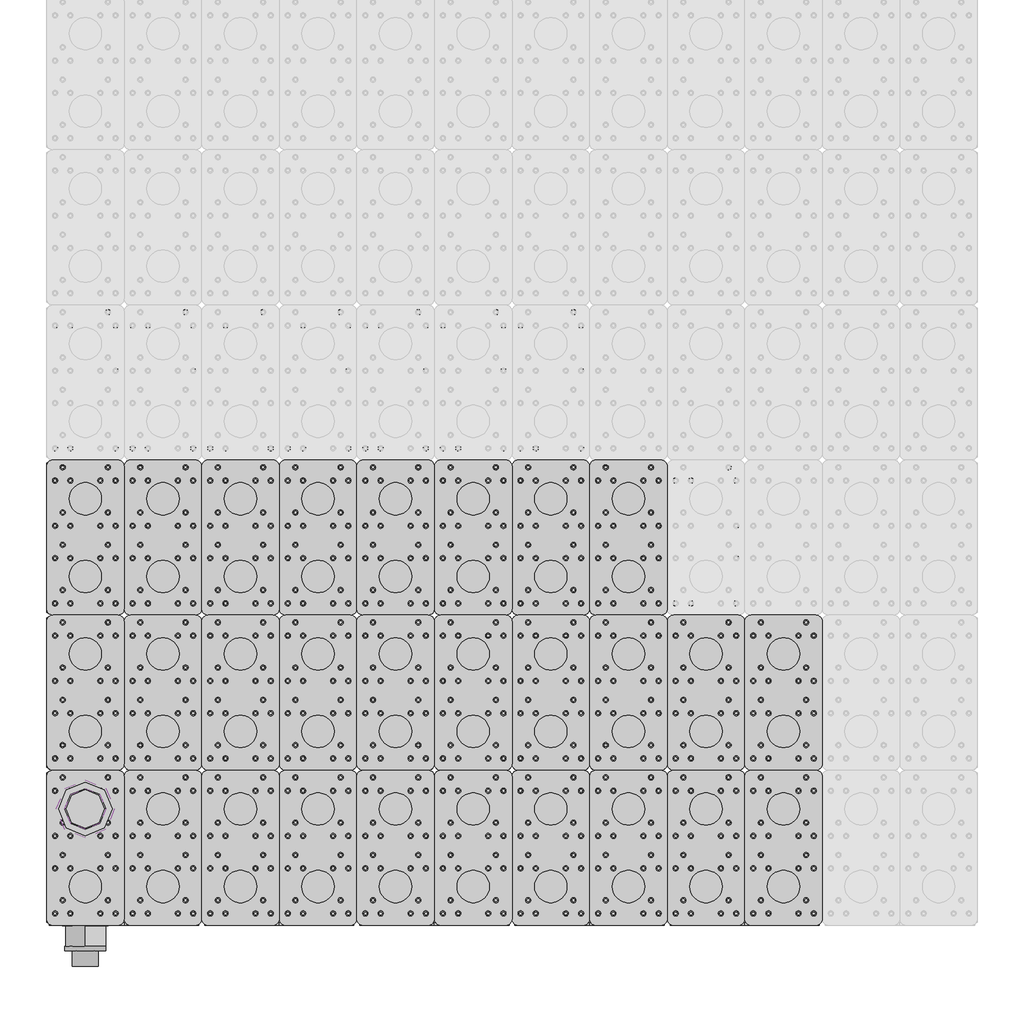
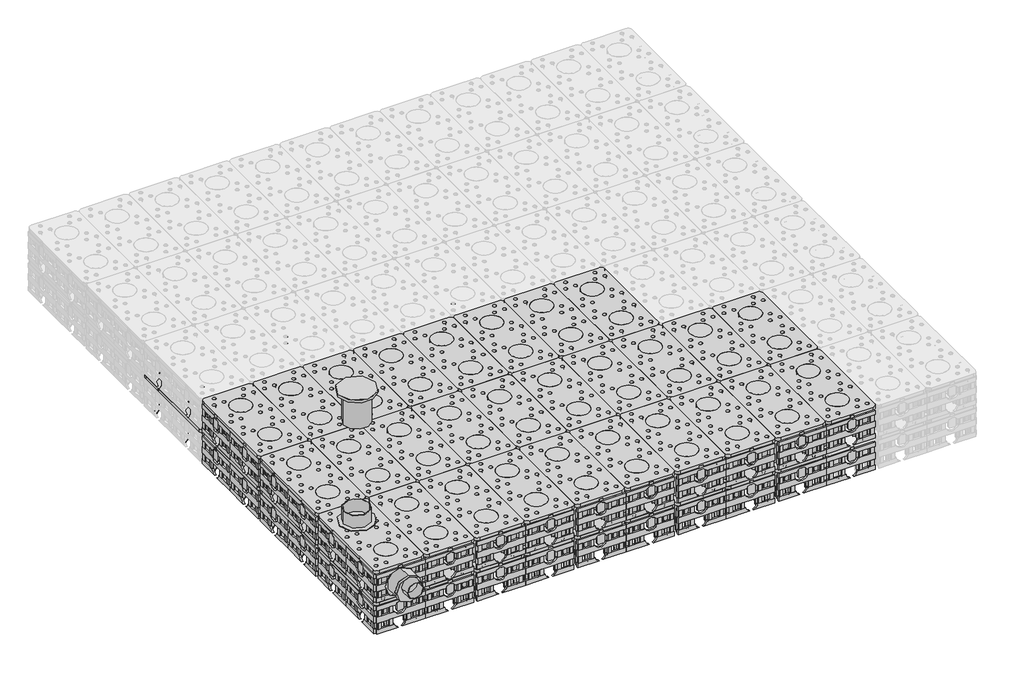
# One storey, part 1 of 6: 81 unitary equipment elements, 3 pipe fittings.
"""IFC4 building model written with IfcOpenShell, lengths in millimetres."""

from ifc_helpers import new_model, si_unit, origin, place, context, project, spatial, transform, mapped, element, save
from components import pipe_fitting_96394642, pipe_fitting_315_cast_iron_ral9200_b04730d4, std_61731345, unitary_equipment_315_mm_28b5e6e1, std_5ed7479e, std_ece4d7e7, std_5641c3e3, std_cb78f788, std_054ed5cf, std_b7651e4d, std_b2eda6de, std_02d09377

model = new_model("IFC4")

# Units and contexts
model_context = context("Model", 3, world=origin())
ifc_project = project(units=[si_unit("LENGTHUNIT", "METRE", prefix="MILLI")], contexts=[model_context])

# Site, building, storey
site = spatial("IfcSite", under=ifc_project)
building = spatial("IfcBuilding", under=site)
storey = spatial("IfcBuildingStorey", under=building, Name="Aquacell", Elevation=-2300.0)

# Pipe fittings
placement = place(None, origin())
pipe_fitting_shape = pipe_fitting_96394642(model_context)
element("IfcPipeFitting", 1, ObjectType="Z_PIF_UN_Aquacell_NG_Telescopic_Pipe_PVC_Wavin_(nested) : DN315 L=375mm RAL8012", at=placement, inside=storey, context=model_context, shape_type="MappedRepresentation", body=[
    mapped(pipe_fitting_shape, transform((2786.051096, -3539.2220602, 165.0), x_axis=(1.0000000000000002, 0.0, 0.0), y_axis=(0.0, 1.0, 0.0), z_axis=(0.0, 0.0, 1.0000000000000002))),
])
pipe_fitting_315_cast_iron_ral9200_shape = pipe_fitting_315_cast_iron_ral9200_b04730d4(model_context)
element("IfcPipeFitting", 2, ObjectType="Z_PIF_UN_Aquacell_NG_Round_Cover_Wavin_(nested) : 315 Cast iron, RAL9200", at=placement, inside=storey, context=model_context, shape_type="MappedRepresentation", body=[
    mapped(pipe_fitting_315_cast_iron_ral9200_shape, transform((2786.051096, -3539.2220602, 200.0), x_axis=(1.0000000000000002, 0.0, 0.0), y_axis=(0.0, 1.0, 0.0), z_axis=(0.0, 0.0, 1.0000000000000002))),
])
std_shape = std_61731345(model_context)
element("IfcPipeFitting", 3, ObjectType="Z_ME_UN_Aquacell_NG_Connection_Adapter_Wavin_(nested) : std", at=placement, inside=storey, context=model_context, shape_type="MappedRepresentation", body=[
    mapped(std_shape, transform((2786.051096, -4439.2220602, -1680.5), x_axis=(-1.0, 0.0, 0.0), y_axis=(0.0, 0.0, 1.0), z_axis=(0.0, 1.0, 0.0))),
])

# Unitary equipment
unitary_equipment_315_mm_shape = unitary_equipment_315_mm_28b5e6e1(model_context)
element("IfcUnitaryEquipment", 4, ObjectType="Z_ME_UN_Aquacell_NG_Kit_Shaft_Connector_Wavin_(nested) : 315 mm", at=placement, inside=storey, context=model_context, shape_type="MappedRepresentation", body=[
    mapped(unitary_equipment_315_mm_shape, transform((2786.051096, -3539.2220602, -1475.0), x_axis=(0.0, 1.0, 0.0), y_axis=(-1.0000000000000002, 0.0, 0.0), z_axis=(0.0, 0.0, 1.0000000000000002))),
])
std_2_shape = std_5ed7479e(model_context)
element("IfcUnitaryEquipment", 5, ObjectType="Z_ME_UN_Aquacell_NG_Lateral_Side_Plate_Wavin_(nested) : std", at=placement, inside=storey, context=model_context, shape_type="MappedRepresentation", body=[
    mapped(std_2_shape, transform((2486.051096, -839.2220602, -2306.0), x_axis=(0.0, -1.0000000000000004, 0.0), y_axis=(1.0000000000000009, 0.0, 0.0), z_axis=(0.0, 0.0, 1.0000000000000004))),
])
element("IfcUnitaryEquipment", 6, ObjectType="Z_ME_UN_Aquacell_NG_Lateral_Side_Plate_Wavin_(nested) : std", at=placement, inside=storey, context=model_context, shape_type="MappedRepresentation", body=[
    mapped(std_2_shape, transform((3686.051096, -4439.2220602, -2306.0), x_axis=(1.0, 0.0, 0.0), y_axis=(0.0, 1.0, 0.0), z_axis=(0.0, 0.0, 1.0))),
])
element("IfcUnitaryEquipment", 7, ObjectType="Z_ME_UN_Aquacell_NG_Lateral_Side_Plate_Wavin_(nested) : std", at=placement, inside=storey, context=model_context, shape_type="MappedRepresentation", body=[
    mapped(std_2_shape, transform((3686.051096, -4439.2220602, -1906.0), x_axis=(1.0, 0.0, 0.0), y_axis=(0.0, 1.0, 0.0), z_axis=(0.0, 0.0, 1.0))),
])
element("IfcUnitaryEquipment", 8, ObjectType="Z_ME_UN_Aquacell_NG_Lateral_Side_Plate_Wavin_(nested) : std", at=placement, inside=storey, context=model_context, shape_type="MappedRepresentation", body=[
    mapped(std_2_shape, transform((2486.051096, -839.2220602, -1906.0), x_axis=(0.0, -1.0000000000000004, 0.0), y_axis=(1.0000000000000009, 0.0, 0.0), z_axis=(0.0, 0.0, 1.0000000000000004))),
])
element("IfcUnitaryEquipment", 9, ObjectType="Z_ME_UN_Aquacell_NG_Lateral_Side_Plate_Wavin_(nested) : std", at=placement, inside=storey, context=model_context, shape_type="MappedRepresentation", body=[
    mapped(std_2_shape, transform((7286.051096, -4439.2220602, -2306.0), x_axis=(1.0, 0.0, 0.0), y_axis=(0.0, 1.0, 0.0), z_axis=(0.0, 0.0, 1.0))),
])
element("IfcUnitaryEquipment", 10, ObjectType="Z_ME_UN_Aquacell_NG_Lateral_Side_Plate_Wavin_(nested) : std", at=placement, inside=storey, context=model_context, shape_type="MappedRepresentation", body=[
    mapped(std_2_shape, transform((7286.051096, -4439.2220602, -1906.0), x_axis=(1.0, 0.0, 0.0), y_axis=(0.0, 1.0, 0.0), z_axis=(0.0, 0.0, 1.0))),
])
element("IfcUnitaryEquipment", 11, ObjectType="Z_ME_UN_Aquacell_NG_Lateral_Side_Plate_Wavin_(nested) : std", at=placement, inside=storey, context=model_context, shape_type="MappedRepresentation", body=[
    mapped(std_2_shape, transform((2486.051096, -2039.2220602, -2306.0), x_axis=(0.0, -1.0000000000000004, 0.0), y_axis=(1.0000000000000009, 0.0, 0.0), z_axis=(0.0, 0.0, 1.0000000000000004))),
])
element("IfcUnitaryEquipment", 12, ObjectType="Z_ME_UN_Aquacell_NG_Lateral_Side_Plate_Wavin_(nested) : std", at=placement, inside=storey, context=model_context, shape_type="MappedRepresentation", body=[
    mapped(std_2_shape, transform((2486.051096, -2039.2220602, -1906.0), x_axis=(0.0, -1.0000000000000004, 0.0), y_axis=(1.0000000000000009, 0.0, 0.0), z_axis=(0.0, 0.0, 1.0000000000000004))),
])
element("IfcUnitaryEquipment", 13, ObjectType="Z_ME_UN_Aquacell_NG_Lateral_Side_Plate_Wavin_(nested) : std", at=placement, inside=storey, context=model_context, shape_type="MappedRepresentation", body=[
    mapped(std_2_shape, transform((2486.051096, -3239.2220602, -2306.0), x_axis=(0.0, -1.0000000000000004, 0.0), y_axis=(1.0000000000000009, 0.0, 0.0), z_axis=(0.0, 0.0, 1.0000000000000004))),
])
element("IfcUnitaryEquipment", 14, ObjectType="Z_ME_UN_Aquacell_NG_Lateral_Side_Plate_Wavin_(nested) : std", at=placement, inside=storey, context=model_context, shape_type="MappedRepresentation", body=[
    mapped(std_2_shape, transform((2486.051096, -3239.2220602, -1906.0), x_axis=(0.0, -1.0000000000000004, 0.0), y_axis=(1.0000000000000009, 0.0, 0.0), z_axis=(0.0, 0.0, 1.0000000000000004))),
])
element("IfcUnitaryEquipment", 15, ObjectType="Z_ME_UN_Aquacell_NG_Lateral_Side_Plate_Wavin_(nested) : std", at=placement, inside=storey, context=model_context, shape_type="MappedRepresentation", body=[
    mapped(std_2_shape, transform((6086.051096, -4439.2220602, -2306.0), x_axis=(1.0, 0.0, 0.0), y_axis=(0.0, 1.0, 0.0), z_axis=(0.0, 0.0, 1.0))),
])
element("IfcUnitaryEquipment", 16, ObjectType="Z_ME_UN_Aquacell_NG_Lateral_Side_Plate_Wavin_(nested) : std", at=placement, inside=storey, context=model_context, shape_type="MappedRepresentation", body=[
    mapped(std_2_shape, transform((6086.051096, -4439.2220602, -1906.0), x_axis=(1.0, 0.0, 0.0), y_axis=(0.0, 1.0, 0.0), z_axis=(0.0, 0.0, 1.0))),
])
element("IfcUnitaryEquipment", 17, ObjectType="Z_ME_UN_Aquacell_NG_Lateral_Side_Plate_Wavin_(nested) : std", at=placement, inside=storey, context=model_context, shape_type="MappedRepresentation", body=[
    mapped(std_2_shape, transform((4886.051096, -4439.2220602, -2306.0), x_axis=(1.0, 0.0, 0.0), y_axis=(0.0, 1.0, 0.0), z_axis=(0.0, 0.0, 1.0))),
])
element("IfcUnitaryEquipment", 18, ObjectType="Z_ME_UN_Aquacell_NG_Lateral_Side_Plate_Wavin_(nested) : std", at=placement, inside=storey, context=model_context, shape_type="MappedRepresentation", body=[
    mapped(std_2_shape, transform((4886.051096, -4439.2220602, -1906.0), x_axis=(1.0, 0.0, 0.0), y_axis=(0.0, 1.0, 0.0), z_axis=(0.0, 0.0, 1.0))),
])
std_3_shape = std_ece4d7e7(model_context)
std_4_shape = std_5641c3e3(model_context)
element("IfcUnitaryEquipment", 19, ObjectType="Z_ME_UN_Aquacell_NG_Infiltration_Unit_Wavin_(nested) : std", at=placement, inside=storey, context=model_context, shape_type="MappedRepresentation", body=[
    mapped(std_3_shape, transform((7886.051096, -4439.2220602, -2475.0), x_axis=(0.0, 1.0, 0.0), y_axis=(-1.0000000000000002, 0.0, 0.0), z_axis=(0.0, 0.0, 1.0000000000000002))),
    mapped(std_4_shape, transform((7886.051096, -4439.2220602, -2475.0), x_axis=(0.0, 1.0, 0.0), y_axis=(-1.0000000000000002, 0.0, 0.0), z_axis=(0.0, 0.0, 1.0000000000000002))),
])
element("IfcUnitaryEquipment", 20, ObjectType="Z_ME_UN_Aquacell_NG_Infiltration_Unit_Wavin_(nested) : std", at=placement, inside=storey, context=model_context, shape_type="MappedRepresentation", body=[
    mapped(std_3_shape, transform((7286.051096, -4439.2220602, -2475.0), x_axis=(0.0, 1.0, 0.0), y_axis=(-1.0000000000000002, 0.0, 0.0), z_axis=(0.0, 0.0, 1.0000000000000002))),
    mapped(std_4_shape, transform((7286.051096, -4439.2220602, -2475.0), x_axis=(0.0, 1.0, 0.0), y_axis=(-1.0000000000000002, 0.0, 0.0), z_axis=(0.0, 0.0, 1.0000000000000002))),
])
element("IfcUnitaryEquipment", 21, ObjectType="Z_ME_UN_Aquacell_NG_Infiltration_Unit_Wavin_(nested) : std", at=placement, inside=storey, context=model_context, shape_type="MappedRepresentation", body=[
    mapped(std_3_shape, transform((6686.051096, -4439.2220602, -2475.0), x_axis=(0.0, 1.0, 0.0), y_axis=(-1.0000000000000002, 0.0, 0.0), z_axis=(0.0, 0.0, 1.0000000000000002))),
    mapped(std_4_shape, transform((6686.051096, -4439.2220602, -2475.0), x_axis=(0.0, 1.0, 0.0), y_axis=(-1.0000000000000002, 0.0, 0.0), z_axis=(0.0, 0.0, 1.0000000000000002))),
])
element("IfcUnitaryEquipment", 22, ObjectType="Z_ME_UN_Aquacell_NG_Infiltration_Unit_Wavin_(nested) : std", at=placement, inside=storey, context=model_context, shape_type="MappedRepresentation", body=[
    mapped(std_3_shape, transform((6086.051096, -4439.2220602, -2475.0), x_axis=(0.0, 1.0, 0.0), y_axis=(-1.0000000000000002, 0.0, 0.0), z_axis=(0.0, 0.0, 1.0000000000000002))),
    mapped(std_4_shape, transform((6086.051096, -4439.2220602, -2475.0), x_axis=(0.0, 1.0, 0.0), y_axis=(-1.0000000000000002, 0.0, 0.0), z_axis=(0.0, 0.0, 1.0000000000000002))),
])
element("IfcUnitaryEquipment", 23, ObjectType="Z_ME_UN_Aquacell_NG_Infiltration_Unit_Wavin_(nested) : std", at=placement, inside=storey, context=model_context, shape_type="MappedRepresentation", body=[
    mapped(std_3_shape, transform((5486.051096, -4439.2220602, -2475.0), x_axis=(0.0, 1.0, 0.0), y_axis=(-1.0000000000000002, 0.0, 0.0), z_axis=(0.0, 0.0, 1.0000000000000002))),
    mapped(std_4_shape, transform((5486.051096, -4439.2220602, -2475.0), x_axis=(0.0, 1.0, 0.0), y_axis=(-1.0000000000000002, 0.0, 0.0), z_axis=(0.0, 0.0, 1.0000000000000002))),
])
element("IfcUnitaryEquipment", 24, ObjectType="Z_ME_UN_Aquacell_NG_Infiltration_Unit_Wavin_(nested) : std", at=placement, inside=storey, context=model_context, shape_type="MappedRepresentation", body=[
    mapped(std_3_shape, transform((4886.051096, -4439.2220602, -2475.0), x_axis=(0.0, 1.0, 0.0), y_axis=(-1.0000000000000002, 0.0, 0.0), z_axis=(0.0, 0.0, 1.0000000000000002))),
    mapped(std_4_shape, transform((4886.051096, -4439.2220602, -2475.0), x_axis=(0.0, 1.0, 0.0), y_axis=(-1.0000000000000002, 0.0, 0.0), z_axis=(0.0, 0.0, 1.0000000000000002))),
])
element("IfcUnitaryEquipment", 25, ObjectType="Z_ME_UN_Aquacell_NG_Infiltration_Unit_Wavin_(nested) : std", at=placement, inside=storey, context=model_context, shape_type="MappedRepresentation", body=[
    mapped(std_3_shape, transform((4286.051096, -4439.2220602, -2475.0), x_axis=(0.0, 1.0, 0.0), y_axis=(-1.0000000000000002, 0.0, 0.0), z_axis=(0.0, 0.0, 1.0000000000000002))),
    mapped(std_4_shape, transform((4286.051096, -4439.2220602, -2475.0), x_axis=(0.0, 1.0, 0.0), y_axis=(-1.0000000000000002, 0.0, 0.0), z_axis=(0.0, 0.0, 1.0000000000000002))),
])
element("IfcUnitaryEquipment", 26, ObjectType="Z_ME_UN_Aquacell_NG_Infiltration_Unit_Wavin_(nested) : std", at=placement, inside=storey, context=model_context, shape_type="MappedRepresentation", body=[
    mapped(std_3_shape, transform((3686.051096, -4439.2220602, -2475.0), x_axis=(0.0, 1.0, 0.0), y_axis=(-1.0000000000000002, 0.0, 0.0), z_axis=(0.0, 0.0, 1.0000000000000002))),
    mapped(std_4_shape, transform((3686.051096, -4439.2220602, -2475.0), x_axis=(0.0, 1.0, 0.0), y_axis=(-1.0000000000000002, 0.0, 0.0), z_axis=(0.0, 0.0, 1.0000000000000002))),
])
element("IfcUnitaryEquipment", 27, ObjectType="Z_ME_UN_Aquacell_NG_Infiltration_Unit_Wavin_(nested) : std", at=placement, inside=storey, context=model_context, shape_type="MappedRepresentation", body=[
    mapped(std_3_shape, transform((7886.051096, -3239.2220602, -2475.0), x_axis=(0.0, 1.0, 0.0), y_axis=(-1.0000000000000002, 0.0, 0.0), z_axis=(0.0, 0.0, 1.0000000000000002))),
    mapped(std_4_shape, transform((7886.051096, -3239.2220602, -2475.0), x_axis=(0.0, 1.0, 0.0), y_axis=(-1.0000000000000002, 0.0, 0.0), z_axis=(0.0, 0.0, 1.0000000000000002))),
])
element("IfcUnitaryEquipment", 28, ObjectType="Z_ME_UN_Aquacell_NG_Infiltration_Unit_Wavin_(nested) : std", at=placement, inside=storey, context=model_context, shape_type="MappedRepresentation", body=[
    mapped(std_3_shape, transform((7886.051096, -2039.2220602, -2475.0), x_axis=(0.0, 1.0, 0.0), y_axis=(-1.0000000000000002, 0.0, 0.0), z_axis=(0.0, 0.0, 1.0000000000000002))),
    mapped(std_4_shape, transform((7886.051096, -2039.2220602, -2475.0), x_axis=(0.0, 1.0, 0.0), y_axis=(-1.0000000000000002, 0.0, 0.0), z_axis=(0.0, 0.0, 1.0000000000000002))),
])
element("IfcUnitaryEquipment", 29, ObjectType="Z_ME_UN_Aquacell_NG_Infiltration_Unit_Wavin_(nested) : std", at=placement, inside=storey, context=model_context, shape_type="MappedRepresentation", body=[
    mapped(std_3_shape, transform((7286.051096, -3239.2220602, -2475.0), x_axis=(0.0, 1.0, 0.0), y_axis=(-1.0000000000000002, 0.0, 0.0), z_axis=(0.0, 0.0, 1.0000000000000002))),
    mapped(std_4_shape, transform((7286.051096, -3239.2220602, -2475.0), x_axis=(0.0, 1.0, 0.0), y_axis=(-1.0000000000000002, 0.0, 0.0), z_axis=(0.0, 0.0, 1.0000000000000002))),
])
element("IfcUnitaryEquipment", 30, ObjectType="Z_ME_UN_Aquacell_NG_Infiltration_Unit_Wavin_(nested) : std", at=placement, inside=storey, context=model_context, shape_type="MappedRepresentation", body=[
    mapped(std_3_shape, transform((7286.051096, -2039.2220602, -2475.0), x_axis=(0.0, 1.0, 0.0), y_axis=(-1.0000000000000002, 0.0, 0.0), z_axis=(0.0, 0.0, 1.0000000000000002))),
    mapped(std_4_shape, transform((7286.051096, -2039.2220602, -2475.0), x_axis=(0.0, 1.0, 0.0), y_axis=(-1.0000000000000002, 0.0, 0.0), z_axis=(0.0, 0.0, 1.0000000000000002))),
])
element("IfcUnitaryEquipment", 31, ObjectType="Z_ME_UN_Aquacell_NG_Infiltration_Unit_Wavin_(nested) : std", at=placement, inside=storey, context=model_context, shape_type="MappedRepresentation", body=[
    mapped(std_3_shape, transform((6686.051096, -3239.2220602, -2475.0), x_axis=(0.0, 1.0, 0.0), y_axis=(-1.0000000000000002, 0.0, 0.0), z_axis=(0.0, 0.0, 1.0000000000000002))),
    mapped(std_4_shape, transform((6686.051096, -3239.2220602, -2475.0), x_axis=(0.0, 1.0, 0.0), y_axis=(-1.0000000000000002, 0.0, 0.0), z_axis=(0.0, 0.0, 1.0000000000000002))),
])
element("IfcUnitaryEquipment", 32, ObjectType="Z_ME_UN_Aquacell_NG_Infiltration_Unit_Wavin_(nested) : std", at=placement, inside=storey, context=model_context, shape_type="MappedRepresentation", body=[
    mapped(std_3_shape, transform((6686.051096, -2039.2220602, -2475.0), x_axis=(0.0, 1.0, 0.0), y_axis=(-1.0000000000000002, 0.0, 0.0), z_axis=(0.0, 0.0, 1.0000000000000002))),
    mapped(std_4_shape, transform((6686.051096, -2039.2220602, -2475.0), x_axis=(0.0, 1.0, 0.0), y_axis=(-1.0000000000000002, 0.0, 0.0), z_axis=(0.0, 0.0, 1.0000000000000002))),
])
element("IfcUnitaryEquipment", 33, ObjectType="Z_ME_UN_Aquacell_NG_Infiltration_Unit_Wavin_(nested) : std", at=placement, inside=storey, context=model_context, shape_type="MappedRepresentation", body=[
    mapped(std_3_shape, transform((6686.051096, -839.2220602, -2475.0), x_axis=(0.0, 1.0, 0.0), y_axis=(-1.0000000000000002, 0.0, 0.0), z_axis=(0.0, 0.0, 1.0000000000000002))),
    mapped(std_4_shape, transform((6686.051096, -839.2220602, -2475.0), x_axis=(0.0, 1.0, 0.0), y_axis=(-1.0000000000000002, 0.0, 0.0), z_axis=(0.0, 0.0, 1.0000000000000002))),
])
element("IfcUnitaryEquipment", 34, ObjectType="Z_ME_UN_Aquacell_NG_Infiltration_Unit_Wavin_(nested) : std", at=placement, inside=storey, context=model_context, shape_type="MappedRepresentation", body=[
    mapped(std_3_shape, transform((6086.051096, -3239.2220602, -2475.0), x_axis=(0.0, 1.0, 0.0), y_axis=(-1.0000000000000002, 0.0, 0.0), z_axis=(0.0, 0.0, 1.0000000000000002))),
    mapped(std_4_shape, transform((6086.051096, -3239.2220602, -2475.0), x_axis=(0.0, 1.0, 0.0), y_axis=(-1.0000000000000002, 0.0, 0.0), z_axis=(0.0, 0.0, 1.0000000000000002))),
])
element("IfcUnitaryEquipment", 35, ObjectType="Z_ME_UN_Aquacell_NG_Infiltration_Unit_Wavin_(nested) : std", at=placement, inside=storey, context=model_context, shape_type="MappedRepresentation", body=[
    mapped(std_3_shape, transform((6086.051096, -2039.2220602, -2475.0), x_axis=(0.0, 1.0, 0.0), y_axis=(-1.0000000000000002, 0.0, 0.0), z_axis=(0.0, 0.0, 1.0000000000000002))),
    mapped(std_4_shape, transform((6086.051096, -2039.2220602, -2475.0), x_axis=(0.0, 1.0, 0.0), y_axis=(-1.0000000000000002, 0.0, 0.0), z_axis=(0.0, 0.0, 1.0000000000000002))),
])
element("IfcUnitaryEquipment", 36, ObjectType="Z_ME_UN_Aquacell_NG_Infiltration_Unit_Wavin_(nested) : std", at=placement, inside=storey, context=model_context, shape_type="MappedRepresentation", body=[
    mapped(std_3_shape, transform((6086.051096, -839.2220602, -2475.0), x_axis=(0.0, 1.0, 0.0), y_axis=(-1.0000000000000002, 0.0, 0.0), z_axis=(0.0, 0.0, 1.0000000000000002))),
    mapped(std_4_shape, transform((6086.051096, -839.2220602, -2475.0), x_axis=(0.0, 1.0, 0.0), y_axis=(-1.0000000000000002, 0.0, 0.0), z_axis=(0.0, 0.0, 1.0000000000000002))),
])
element("IfcUnitaryEquipment", 37, ObjectType="Z_ME_UN_Aquacell_NG_Infiltration_Unit_Wavin_(nested) : std", at=placement, inside=storey, context=model_context, shape_type="MappedRepresentation", body=[
    mapped(std_3_shape, transform((5486.051096, -3239.2220602, -2475.0), x_axis=(0.0, 1.0, 0.0), y_axis=(-1.0000000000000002, 0.0, 0.0), z_axis=(0.0, 0.0, 1.0000000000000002))),
    mapped(std_4_shape, transform((5486.051096, -3239.2220602, -2475.0), x_axis=(0.0, 1.0, 0.0), y_axis=(-1.0000000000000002, 0.0, 0.0), z_axis=(0.0, 0.0, 1.0000000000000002))),
])
element("IfcUnitaryEquipment", 38, ObjectType="Z_ME_UN_Aquacell_NG_Infiltration_Unit_Wavin_(nested) : std", at=placement, inside=storey, context=model_context, shape_type="MappedRepresentation", body=[
    mapped(std_3_shape, transform((5486.051096, -2039.2220602, -2475.0), x_axis=(0.0, 1.0, 0.0), y_axis=(-1.0000000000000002, 0.0, 0.0), z_axis=(0.0, 0.0, 1.0000000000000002))),
    mapped(std_4_shape, transform((5486.051096, -2039.2220602, -2475.0), x_axis=(0.0, 1.0, 0.0), y_axis=(-1.0000000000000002, 0.0, 0.0), z_axis=(0.0, 0.0, 1.0000000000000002))),
])
element("IfcUnitaryEquipment", 39, ObjectType="Z_ME_UN_Aquacell_NG_Infiltration_Unit_Wavin_(nested) : std", at=placement, inside=storey, context=model_context, shape_type="MappedRepresentation", body=[
    mapped(std_3_shape, transform((5486.051096, -839.2220602, -2475.0), x_axis=(0.0, 1.0, 0.0), y_axis=(-1.0000000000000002, 0.0, 0.0), z_axis=(0.0, 0.0, 1.0000000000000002))),
    mapped(std_4_shape, transform((5486.051096, -839.2220602, -2475.0), x_axis=(0.0, 1.0, 0.0), y_axis=(-1.0000000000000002, 0.0, 0.0), z_axis=(0.0, 0.0, 1.0000000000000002))),
])
element("IfcUnitaryEquipment", 40, ObjectType="Z_ME_UN_Aquacell_NG_Infiltration_Unit_Wavin_(nested) : std", at=placement, inside=storey, context=model_context, shape_type="MappedRepresentation", body=[
    mapped(std_3_shape, transform((4886.051096, -3239.2220602, -2475.0), x_axis=(0.0, 1.0, 0.0), y_axis=(-1.0000000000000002, 0.0, 0.0), z_axis=(0.0, 0.0, 1.0000000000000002))),
    mapped(std_4_shape, transform((4886.051096, -3239.2220602, -2475.0), x_axis=(0.0, 1.0, 0.0), y_axis=(-1.0000000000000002, 0.0, 0.0), z_axis=(0.0, 0.0, 1.0000000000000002))),
])
element("IfcUnitaryEquipment", 41, ObjectType="Z_ME_UN_Aquacell_NG_Infiltration_Unit_Wavin_(nested) : std", at=placement, inside=storey, context=model_context, shape_type="MappedRepresentation", body=[
    mapped(std_3_shape, transform((4886.051096, -2039.2220602, -2475.0), x_axis=(0.0, 1.0, 0.0), y_axis=(-1.0000000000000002, 0.0, 0.0), z_axis=(0.0, 0.0, 1.0000000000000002))),
    mapped(std_4_shape, transform((4886.051096, -2039.2220602, -2475.0), x_axis=(0.0, 1.0, 0.0), y_axis=(-1.0000000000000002, 0.0, 0.0), z_axis=(0.0, 0.0, 1.0000000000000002))),
])
element("IfcUnitaryEquipment", 42, ObjectType="Z_ME_UN_Aquacell_NG_Infiltration_Unit_Wavin_(nested) : std", at=placement, inside=storey, context=model_context, shape_type="MappedRepresentation", body=[
    mapped(std_3_shape, transform((4886.051096, -839.2220602, -2475.0), x_axis=(0.0, 1.0, 0.0), y_axis=(-1.0000000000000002, 0.0, 0.0), z_axis=(0.0, 0.0, 1.0000000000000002))),
    mapped(std_4_shape, transform((4886.051096, -839.2220602, -2475.0), x_axis=(0.0, 1.0, 0.0), y_axis=(-1.0000000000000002, 0.0, 0.0), z_axis=(0.0, 0.0, 1.0000000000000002))),
])
element("IfcUnitaryEquipment", 43, ObjectType="Z_ME_UN_Aquacell_NG_Infiltration_Unit_Wavin_(nested) : std", at=placement, inside=storey, context=model_context, shape_type="MappedRepresentation", body=[
    mapped(std_3_shape, transform((4286.051096, -3239.2220602, -2475.0), x_axis=(0.0, 1.0, 0.0), y_axis=(-1.0000000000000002, 0.0, 0.0), z_axis=(0.0, 0.0, 1.0000000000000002))),
    mapped(std_4_shape, transform((4286.051096, -3239.2220602, -2475.0), x_axis=(0.0, 1.0, 0.0), y_axis=(-1.0000000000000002, 0.0, 0.0), z_axis=(0.0, 0.0, 1.0000000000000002))),
])
element("IfcUnitaryEquipment", 44, ObjectType="Z_ME_UN_Aquacell_NG_Infiltration_Unit_Wavin_(nested) : std", at=placement, inside=storey, context=model_context, shape_type="MappedRepresentation", body=[
    mapped(std_3_shape, transform((4286.051096, -2039.2220602, -2475.0), x_axis=(0.0, 1.0, 0.0), y_axis=(-1.0000000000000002, 0.0, 0.0), z_axis=(0.0, 0.0, 1.0000000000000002))),
    mapped(std_4_shape, transform((4286.051096, -2039.2220602, -2475.0), x_axis=(0.0, 1.0, 0.0), y_axis=(-1.0000000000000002, 0.0, 0.0), z_axis=(0.0, 0.0, 1.0000000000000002))),
])
element("IfcUnitaryEquipment", 45, ObjectType="Z_ME_UN_Aquacell_NG_Infiltration_Unit_Wavin_(nested) : std", at=placement, inside=storey, context=model_context, shape_type="MappedRepresentation", body=[
    mapped(std_3_shape, transform((4286.051096, -839.2220602, -2475.0), x_axis=(0.0, 1.0, 0.0), y_axis=(-1.0000000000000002, 0.0, 0.0), z_axis=(0.0, 0.0, 1.0000000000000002))),
    mapped(std_4_shape, transform((4286.051096, -839.2220602, -2475.0), x_axis=(0.0, 1.0, 0.0), y_axis=(-1.0000000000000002, 0.0, 0.0), z_axis=(0.0, 0.0, 1.0000000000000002))),
])
element("IfcUnitaryEquipment", 46, ObjectType="Z_ME_UN_Aquacell_NG_Infiltration_Unit_Wavin_(nested) : std", at=placement, inside=storey, context=model_context, shape_type="MappedRepresentation", body=[
    mapped(std_3_shape, transform((3686.051096, -3239.2220602, -2475.0), x_axis=(0.0, 1.0, 0.0), y_axis=(-1.0000000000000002, 0.0, 0.0), z_axis=(0.0, 0.0, 1.0000000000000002))),
    mapped(std_4_shape, transform((3686.051096, -3239.2220602, -2475.0), x_axis=(0.0, 1.0, 0.0), y_axis=(-1.0000000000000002, 0.0, 0.0), z_axis=(0.0, 0.0, 1.0000000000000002))),
])
element("IfcUnitaryEquipment", 47, ObjectType="Z_ME_UN_Aquacell_NG_Infiltration_Unit_Wavin_(nested) : std", at=placement, inside=storey, context=model_context, shape_type="MappedRepresentation", body=[
    mapped(std_3_shape, transform((3686.051096, -2039.2220602, -2475.0), x_axis=(0.0, 1.0, 0.0), y_axis=(-1.0000000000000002, 0.0, 0.0), z_axis=(0.0, 0.0, 1.0000000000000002))),
    mapped(std_4_shape, transform((3686.051096, -2039.2220602, -2475.0), x_axis=(0.0, 1.0, 0.0), y_axis=(-1.0000000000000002, 0.0, 0.0), z_axis=(0.0, 0.0, 1.0000000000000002))),
])
element("IfcUnitaryEquipment", 48, ObjectType="Z_ME_UN_Aquacell_NG_Infiltration_Unit_Wavin_(nested) : std", at=placement, inside=storey, context=model_context, shape_type="MappedRepresentation", body=[
    mapped(std_3_shape, transform((3686.051096, -839.2220602, -2475.0), x_axis=(0.0, 1.0, 0.0), y_axis=(-1.0000000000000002, 0.0, 0.0), z_axis=(0.0, 0.0, 1.0000000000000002))),
    mapped(std_4_shape, transform((3686.051096, -839.2220602, -2475.0), x_axis=(0.0, 1.0, 0.0), y_axis=(-1.0000000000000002, 0.0, 0.0), z_axis=(0.0, 0.0, 1.0000000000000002))),
])
element("IfcUnitaryEquipment", 49, ObjectType="Z_ME_UN_Aquacell_NG_Infiltration_Unit_Wavin_(nested) : std", at=placement, inside=storey, context=model_context, shape_type="MappedRepresentation", body=[
    mapped(std_3_shape, transform((3086.051096, -3239.2220602, -2475.0), x_axis=(0.0, 1.0, 0.0), y_axis=(-1.0000000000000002, 0.0, 0.0), z_axis=(0.0, 0.0, 1.0000000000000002))),
    mapped(std_4_shape, transform((3086.051096, -3239.2220602, -2475.0), x_axis=(0.0, 1.0, 0.0), y_axis=(-1.0000000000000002, 0.0, 0.0), z_axis=(0.0, 0.0, 1.0000000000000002))),
])
element("IfcUnitaryEquipment", 50, ObjectType="Z_ME_UN_Aquacell_NG_Infiltration_Unit_Wavin_(nested) : std", at=placement, inside=storey, context=model_context, shape_type="MappedRepresentation", body=[
    mapped(std_3_shape, transform((3086.051096, -2039.2220602, -2475.0), x_axis=(0.0, 1.0, 0.0), y_axis=(-1.0000000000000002, 0.0, 0.0), z_axis=(0.0, 0.0, 1.0000000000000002))),
    mapped(std_4_shape, transform((3086.051096, -2039.2220602, -2475.0), x_axis=(0.0, 1.0, 0.0), y_axis=(-1.0000000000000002, 0.0, 0.0), z_axis=(0.0, 0.0, 1.0000000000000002))),
])
element("IfcUnitaryEquipment", 51, ObjectType="Z_ME_UN_Aquacell_NG_Infiltration_Unit_Wavin_(nested) : std", at=placement, inside=storey, context=model_context, shape_type="MappedRepresentation", body=[
    mapped(std_3_shape, transform((3086.051096, -839.2220602, -2475.0), x_axis=(0.0, 1.0, 0.0), y_axis=(-1.0000000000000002, 0.0, 0.0), z_axis=(0.0, 0.0, 1.0000000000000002))),
    mapped(std_4_shape, transform((3086.051096, -839.2220602, -2475.0), x_axis=(0.0, 1.0, 0.0), y_axis=(-1.0000000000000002, 0.0, 0.0), z_axis=(0.0, 0.0, 1.0000000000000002))),
])
element("IfcUnitaryEquipment", 52, ObjectType="Z_ME_UN_Aquacell_NG_Infiltration_Unit_Wavin_(nested) : std", at=placement, inside=storey, context=model_context, shape_type="MappedRepresentation", body=[
    mapped(std_3_shape, transform((7886.051096, -3239.2220602, -2075.0), x_axis=(0.0, -1.0, 0.0), y_axis=(1.0000000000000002, 0.0, 0.0), z_axis=(0.0, 0.0, 1.0000000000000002))),
    mapped(std_4_shape, transform((7886.051096, -3239.2220602, -2075.0), x_axis=(0.0, -1.0, 0.0), y_axis=(1.0000000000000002, 0.0, 0.0), z_axis=(0.0, 0.0, 1.0000000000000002))),
])
element("IfcUnitaryEquipment", 53, ObjectType="Z_ME_UN_Aquacell_NG_Infiltration_Unit_Wavin_(nested) : std", at=placement, inside=storey, context=model_context, shape_type="MappedRepresentation", body=[
    mapped(std_3_shape, transform((7286.051096, -3239.2220602, -2075.0), x_axis=(0.0, -1.0, 0.0), y_axis=(1.0000000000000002, 0.0, 0.0), z_axis=(0.0, 0.0, 1.0000000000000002))),
    mapped(std_4_shape, transform((7286.051096, -3239.2220602, -2075.0), x_axis=(0.0, -1.0, 0.0), y_axis=(1.0000000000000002, 0.0, 0.0), z_axis=(0.0, 0.0, 1.0000000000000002))),
])
element("IfcUnitaryEquipment", 54, ObjectType="Z_ME_UN_Aquacell_NG_Infiltration_Unit_Wavin_(nested) : std", at=placement, inside=storey, context=model_context, shape_type="MappedRepresentation", body=[
    mapped(std_3_shape, transform((6686.051096, -3239.2220602, -2075.0), x_axis=(0.0, -1.0, 0.0), y_axis=(1.0000000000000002, 0.0, 0.0), z_axis=(0.0, 0.0, 1.0000000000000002))),
    mapped(std_4_shape, transform((6686.051096, -3239.2220602, -2075.0), x_axis=(0.0, -1.0, 0.0), y_axis=(1.0000000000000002, 0.0, 0.0), z_axis=(0.0, 0.0, 1.0000000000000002))),
])
element("IfcUnitaryEquipment", 55, ObjectType="Z_ME_UN_Aquacell_NG_Infiltration_Unit_Wavin_(nested) : std", at=placement, inside=storey, context=model_context, shape_type="MappedRepresentation", body=[
    mapped(std_3_shape, transform((6086.051096, -3239.2220602, -2075.0), x_axis=(0.0, -1.0, 0.0), y_axis=(1.0000000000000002, 0.0, 0.0), z_axis=(0.0, 0.0, 1.0000000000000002))),
    mapped(std_4_shape, transform((6086.051096, -3239.2220602, -2075.0), x_axis=(0.0, -1.0, 0.0), y_axis=(1.0000000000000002, 0.0, 0.0), z_axis=(0.0, 0.0, 1.0000000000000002))),
])
element("IfcUnitaryEquipment", 56, ObjectType="Z_ME_UN_Aquacell_NG_Infiltration_Unit_Wavin_(nested) : std", at=placement, inside=storey, context=model_context, shape_type="MappedRepresentation", body=[
    mapped(std_3_shape, transform((5486.051096, -3239.2220602, -2075.0), x_axis=(0.0, -1.0, 0.0), y_axis=(1.0000000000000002, 0.0, 0.0), z_axis=(0.0, 0.0, 1.0000000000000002))),
    mapped(std_4_shape, transform((5486.051096, -3239.2220602, -2075.0), x_axis=(0.0, -1.0, 0.0), y_axis=(1.0000000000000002, 0.0, 0.0), z_axis=(0.0, 0.0, 1.0000000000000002))),
])
element("IfcUnitaryEquipment", 57, ObjectType="Z_ME_UN_Aquacell_NG_Infiltration_Unit_Wavin_(nested) : std", at=placement, inside=storey, context=model_context, shape_type="MappedRepresentation", body=[
    mapped(std_3_shape, transform((4886.051096, -3239.2220602, -2075.0), x_axis=(0.0, -1.0, 0.0), y_axis=(1.0000000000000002, 0.0, 0.0), z_axis=(0.0, 0.0, 1.0000000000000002))),
    mapped(std_4_shape, transform((4886.051096, -3239.2220602, -2075.0), x_axis=(0.0, -1.0, 0.0), y_axis=(1.0000000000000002, 0.0, 0.0), z_axis=(0.0, 0.0, 1.0000000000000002))),
])
element("IfcUnitaryEquipment", 58, ObjectType="Z_ME_UN_Aquacell_NG_Infiltration_Unit_Wavin_(nested) : std", at=placement, inside=storey, context=model_context, shape_type="MappedRepresentation", body=[
    mapped(std_3_shape, transform((4286.051096, -3239.2220602, -2075.0), x_axis=(0.0, -1.0, 0.0), y_axis=(1.0000000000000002, 0.0, 0.0), z_axis=(0.0, 0.0, 1.0000000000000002))),
    mapped(std_4_shape, transform((4286.051096, -3239.2220602, -2075.0), x_axis=(0.0, -1.0, 0.0), y_axis=(1.0000000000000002, 0.0, 0.0), z_axis=(0.0, 0.0, 1.0000000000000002))),
])
element("IfcUnitaryEquipment", 59, ObjectType="Z_ME_UN_Aquacell_NG_Infiltration_Unit_Wavin_(nested) : std", at=placement, inside=storey, context=model_context, shape_type="MappedRepresentation", body=[
    mapped(std_3_shape, transform((3686.051096, -3239.2220602, -2075.0), x_axis=(0.0, -1.0, 0.0), y_axis=(1.0000000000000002, 0.0, 0.0), z_axis=(0.0, 0.0, 1.0000000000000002))),
    mapped(std_4_shape, transform((3686.051096, -3239.2220602, -2075.0), x_axis=(0.0, -1.0, 0.0), y_axis=(1.0000000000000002, 0.0, 0.0), z_axis=(0.0, 0.0, 1.0000000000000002))),
])
element("IfcUnitaryEquipment", 60, ObjectType="Z_ME_UN_Aquacell_NG_Infiltration_Unit_Wavin_(nested) : std", at=placement, inside=storey, context=model_context, shape_type="MappedRepresentation", body=[
    mapped(std_3_shape, transform((3086.051096, -3239.2220602, -2075.0), x_axis=(0.0, -1.0, 0.0), y_axis=(1.0000000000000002, 0.0, 0.0), z_axis=(0.0, 0.0, 1.0000000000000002))),
    mapped(std_4_shape, transform((3086.051096, -3239.2220602, -2075.0), x_axis=(0.0, -1.0, 0.0), y_axis=(1.0000000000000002, 0.0, 0.0), z_axis=(0.0, 0.0, 1.0000000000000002))),
])
element("IfcUnitaryEquipment", 61, ObjectType="Z_ME_UN_Aquacell_NG_Infiltration_Unit_Wavin_(nested) : std", at=placement, inside=storey, context=model_context, shape_type="MappedRepresentation", body=[
    mapped(std_3_shape, transform((7886.051096, -2039.2220602, -2075.0), x_axis=(0.0, -1.0, 0.0), y_axis=(1.0000000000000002, 0.0, 0.0), z_axis=(0.0, 0.0, 1.0000000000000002))),
    mapped(std_4_shape, transform((7886.051096, -2039.2220602, -2075.0), x_axis=(0.0, -1.0, 0.0), y_axis=(1.0000000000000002, 0.0, 0.0), z_axis=(0.0, 0.0, 1.0000000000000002))),
])
element("IfcUnitaryEquipment", 62, ObjectType="Z_ME_UN_Aquacell_NG_Infiltration_Unit_Wavin_(nested) : std", at=placement, inside=storey, context=model_context, shape_type="MappedRepresentation", body=[
    mapped(std_3_shape, transform((7286.051096, -2039.2220602, -2075.0), x_axis=(0.0, -1.0, 0.0), y_axis=(1.0000000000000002, 0.0, 0.0), z_axis=(0.0, 0.0, 1.0000000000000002))),
    mapped(std_4_shape, transform((7286.051096, -2039.2220602, -2075.0), x_axis=(0.0, -1.0, 0.0), y_axis=(1.0000000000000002, 0.0, 0.0), z_axis=(0.0, 0.0, 1.0000000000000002))),
])
element("IfcUnitaryEquipment", 63, ObjectType="Z_ME_UN_Aquacell_NG_Infiltration_Unit_Wavin_(nested) : std", at=placement, inside=storey, context=model_context, shape_type="MappedRepresentation", body=[
    mapped(std_3_shape, transform((6686.051096, -2039.2220602, -2075.0), x_axis=(0.0, -1.0, 0.0), y_axis=(1.0000000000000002, 0.0, 0.0), z_axis=(0.0, 0.0, 1.0000000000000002))),
    mapped(std_4_shape, transform((6686.051096, -2039.2220602, -2075.0), x_axis=(0.0, -1.0, 0.0), y_axis=(1.0000000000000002, 0.0, 0.0), z_axis=(0.0, 0.0, 1.0000000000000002))),
])
element("IfcUnitaryEquipment", 64, ObjectType="Z_ME_UN_Aquacell_NG_Infiltration_Unit_Wavin_(nested) : std", at=placement, inside=storey, context=model_context, shape_type="MappedRepresentation", body=[
    mapped(std_3_shape, transform((6686.051096, -839.2220602, -2075.0), x_axis=(0.0, -1.0, 0.0), y_axis=(1.0000000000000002, 0.0, 0.0), z_axis=(0.0, 0.0, 1.0000000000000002))),
    mapped(std_4_shape, transform((6686.051096, -839.2220602, -2075.0), x_axis=(0.0, -1.0, 0.0), y_axis=(1.0000000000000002, 0.0, 0.0), z_axis=(0.0, 0.0, 1.0000000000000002))),
])
element("IfcUnitaryEquipment", 65, ObjectType="Z_ME_UN_Aquacell_NG_Infiltration_Unit_Wavin_(nested) : std", at=placement, inside=storey, context=model_context, shape_type="MappedRepresentation", body=[
    mapped(std_3_shape, transform((6086.051096, -2039.2220602, -2075.0), x_axis=(0.0, -1.0, 0.0), y_axis=(1.0000000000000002, 0.0, 0.0), z_axis=(0.0, 0.0, 1.0000000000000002))),
    mapped(std_4_shape, transform((6086.051096, -2039.2220602, -2075.0), x_axis=(0.0, -1.0, 0.0), y_axis=(1.0000000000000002, 0.0, 0.0), z_axis=(0.0, 0.0, 1.0000000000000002))),
])
element("IfcUnitaryEquipment", 66, ObjectType="Z_ME_UN_Aquacell_NG_Infiltration_Unit_Wavin_(nested) : std", at=placement, inside=storey, context=model_context, shape_type="MappedRepresentation", body=[
    mapped(std_3_shape, transform((6086.051096, -839.2220602, -2075.0), x_axis=(0.0, -1.0, 0.0), y_axis=(1.0000000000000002, 0.0, 0.0), z_axis=(0.0, 0.0, 1.0000000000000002))),
    mapped(std_4_shape, transform((6086.051096, -839.2220602, -2075.0), x_axis=(0.0, -1.0, 0.0), y_axis=(1.0000000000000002, 0.0, 0.0), z_axis=(0.0, 0.0, 1.0000000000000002))),
])
element("IfcUnitaryEquipment", 67, ObjectType="Z_ME_UN_Aquacell_NG_Infiltration_Unit_Wavin_(nested) : std", at=placement, inside=storey, context=model_context, shape_type="MappedRepresentation", body=[
    mapped(std_3_shape, transform((5486.051096, -2039.2220602, -2075.0), x_axis=(0.0, -1.0, 0.0), y_axis=(1.0000000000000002, 0.0, 0.0), z_axis=(0.0, 0.0, 1.0000000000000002))),
    mapped(std_4_shape, transform((5486.051096, -2039.2220602, -2075.0), x_axis=(0.0, -1.0, 0.0), y_axis=(1.0000000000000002, 0.0, 0.0), z_axis=(0.0, 0.0, 1.0000000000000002))),
])
element("IfcUnitaryEquipment", 68, ObjectType="Z_ME_UN_Aquacell_NG_Infiltration_Unit_Wavin_(nested) : std", at=placement, inside=storey, context=model_context, shape_type="MappedRepresentation", body=[
    mapped(std_3_shape, transform((5486.051096, -839.2220602, -2075.0), x_axis=(0.0, -1.0, 0.0), y_axis=(1.0000000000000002, 0.0, 0.0), z_axis=(0.0, 0.0, 1.0000000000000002))),
    mapped(std_4_shape, transform((5486.051096, -839.2220602, -2075.0), x_axis=(0.0, -1.0, 0.0), y_axis=(1.0000000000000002, 0.0, 0.0), z_axis=(0.0, 0.0, 1.0000000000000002))),
])
element("IfcUnitaryEquipment", 69, ObjectType="Z_ME_UN_Aquacell_NG_Infiltration_Unit_Wavin_(nested) : std", at=placement, inside=storey, context=model_context, shape_type="MappedRepresentation", body=[
    mapped(std_3_shape, transform((4886.051096, -2039.2220602, -2075.0), x_axis=(0.0, -1.0, 0.0), y_axis=(1.0000000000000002, 0.0, 0.0), z_axis=(0.0, 0.0, 1.0000000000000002))),
    mapped(std_4_shape, transform((4886.051096, -2039.2220602, -2075.0), x_axis=(0.0, -1.0, 0.0), y_axis=(1.0000000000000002, 0.0, 0.0), z_axis=(0.0, 0.0, 1.0000000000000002))),
])
element("IfcUnitaryEquipment", 70, ObjectType="Z_ME_UN_Aquacell_NG_Infiltration_Unit_Wavin_(nested) : std", at=placement, inside=storey, context=model_context, shape_type="MappedRepresentation", body=[
    mapped(std_3_shape, transform((4886.051096, -839.2220602, -2075.0), x_axis=(0.0, -1.0, 0.0), y_axis=(1.0000000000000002, 0.0, 0.0), z_axis=(0.0, 0.0, 1.0000000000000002))),
    mapped(std_4_shape, transform((4886.051096, -839.2220602, -2075.0), x_axis=(0.0, -1.0, 0.0), y_axis=(1.0000000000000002, 0.0, 0.0), z_axis=(0.0, 0.0, 1.0000000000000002))),
])
element("IfcUnitaryEquipment", 71, ObjectType="Z_ME_UN_Aquacell_NG_Infiltration_Unit_Wavin_(nested) : std", at=placement, inside=storey, context=model_context, shape_type="MappedRepresentation", body=[
    mapped(std_3_shape, transform((4286.051096, -2039.2220602, -2075.0), x_axis=(0.0, -1.0, 0.0), y_axis=(1.0000000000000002, 0.0, 0.0), z_axis=(0.0, 0.0, 1.0000000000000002))),
    mapped(std_4_shape, transform((4286.051096, -2039.2220602, -2075.0), x_axis=(0.0, -1.0, 0.0), y_axis=(1.0000000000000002, 0.0, 0.0), z_axis=(0.0, 0.0, 1.0000000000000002))),
])
element("IfcUnitaryEquipment", 72, ObjectType="Z_ME_UN_Aquacell_NG_Infiltration_Unit_Wavin_(nested) : std", at=placement, inside=storey, context=model_context, shape_type="MappedRepresentation", body=[
    mapped(std_3_shape, transform((4286.051096, -839.2220602, -2075.0), x_axis=(0.0, -1.0, 0.0), y_axis=(1.0000000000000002, 0.0, 0.0), z_axis=(0.0, 0.0, 1.0000000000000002))),
    mapped(std_4_shape, transform((4286.051096, -839.2220602, -2075.0), x_axis=(0.0, -1.0, 0.0), y_axis=(1.0000000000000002, 0.0, 0.0), z_axis=(0.0, 0.0, 1.0000000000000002))),
])
element("IfcUnitaryEquipment", 73, ObjectType="Z_ME_UN_Aquacell_NG_Infiltration_Unit_Wavin_(nested) : std", at=placement, inside=storey, context=model_context, shape_type="MappedRepresentation", body=[
    mapped(std_3_shape, transform((3686.051096, -2039.2220602, -2075.0), x_axis=(0.0, -1.0, 0.0), y_axis=(1.0000000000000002, 0.0, 0.0), z_axis=(0.0, 0.0, 1.0000000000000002))),
    mapped(std_4_shape, transform((3686.051096, -2039.2220602, -2075.0), x_axis=(0.0, -1.0, 0.0), y_axis=(1.0000000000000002, 0.0, 0.0), z_axis=(0.0, 0.0, 1.0000000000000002))),
])
element("IfcUnitaryEquipment", 74, ObjectType="Z_ME_UN_Aquacell_NG_Infiltration_Unit_Wavin_(nested) : std", at=placement, inside=storey, context=model_context, shape_type="MappedRepresentation", body=[
    mapped(std_3_shape, transform((3686.051096, -839.2220602, -2075.0), x_axis=(0.0, -1.0, 0.0), y_axis=(1.0000000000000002, 0.0, 0.0), z_axis=(0.0, 0.0, 1.0000000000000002))),
    mapped(std_4_shape, transform((3686.051096, -839.2220602, -2075.0), x_axis=(0.0, -1.0, 0.0), y_axis=(1.0000000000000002, 0.0, 0.0), z_axis=(0.0, 0.0, 1.0000000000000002))),
])
element("IfcUnitaryEquipment", 75, ObjectType="Z_ME_UN_Aquacell_NG_Infiltration_Unit_Wavin_(nested) : std", at=placement, inside=storey, context=model_context, shape_type="MappedRepresentation", body=[
    mapped(std_3_shape, transform((3086.051096, -2039.2220602, -2075.0), x_axis=(0.0, -1.0, 0.0), y_axis=(1.0000000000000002, 0.0, 0.0), z_axis=(0.0, 0.0, 1.0000000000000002))),
    mapped(std_4_shape, transform((3086.051096, -2039.2220602, -2075.0), x_axis=(0.0, -1.0, 0.0), y_axis=(1.0000000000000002, 0.0, 0.0), z_axis=(0.0, 0.0, 1.0000000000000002))),
])
element("IfcUnitaryEquipment", 76, ObjectType="Z_ME_UN_Aquacell_NG_Infiltration_Unit_Wavin_(nested) : std", at=placement, inside=storey, context=model_context, shape_type="MappedRepresentation", body=[
    mapped(std_3_shape, transform((3086.051096, -839.2220602, -2075.0), x_axis=(0.0, -1.0, 0.0), y_axis=(1.0000000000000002, 0.0, 0.0), z_axis=(0.0, 0.0, 1.0000000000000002))),
    mapped(std_4_shape, transform((3086.051096, -839.2220602, -2075.0), x_axis=(0.0, -1.0, 0.0), y_axis=(1.0000000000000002, 0.0, 0.0), z_axis=(0.0, 0.0, 1.0000000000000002))),
])
element("IfcUnitaryEquipment", 77, ObjectType="Z_ME_UN_Aquacell_NG_Infiltration_Unit_Wavin_(nested) : std", at=placement, inside=storey, context=model_context, shape_type="MappedRepresentation", body=[
    mapped(std_3_shape, transform((2486.051096, -2039.2220602, -2075.0), x_axis=(0.0, -1.0, 0.0), y_axis=(1.0000000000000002, 0.0, 0.0), z_axis=(0.0, 0.0, 1.0000000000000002))),
    mapped(std_4_shape, transform((2486.051096, -2039.2220602, -2075.0), x_axis=(0.0, -1.0, 0.0), y_axis=(1.0000000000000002, 0.0, 0.0), z_axis=(0.0, 0.0, 1.0000000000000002))),
])
element("IfcUnitaryEquipment", 78, ObjectType="Z_ME_UN_Aquacell_NG_Infiltration_Unit_Wavin_(nested) : std", at=placement, inside=storey, context=model_context, shape_type="MappedRepresentation", body=[
    mapped(std_3_shape, transform((2486.051096, -839.2220602, -2075.0), x_axis=(0.0, -1.0, 0.0), y_axis=(1.0000000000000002, 0.0, 0.0), z_axis=(0.0, 0.0, 1.0000000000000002))),
    mapped(std_4_shape, transform((2486.051096, -839.2220602, -2075.0), x_axis=(0.0, -1.0, 0.0), y_axis=(1.0000000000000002, 0.0, 0.0), z_axis=(0.0, 0.0, 1.0000000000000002))),
])
std_5_shape = std_cb78f788(model_context)
element("IfcUnitaryEquipment", 79, ObjectType="Z_ME_UN_Aquacell_NG_Infiltration_Unit_Wavin_(nested) : std", at=placement, inside=storey, context=model_context, shape_type="MappedRepresentation", body=[
    mapped(std_5_shape, transform((3086.051096, -4439.2220602, -2475.0), x_axis=(0.0, 1.0, 0.0), y_axis=(-1.0000000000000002, 0.0, 0.0), z_axis=(0.0, 0.0, 1.0000000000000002))),
    mapped(std_4_shape, transform((3086.051096, -4439.2220602, -2475.0), x_axis=(0.0, 1.0, 0.0), y_axis=(-1.0000000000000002, 0.0, 0.0), z_axis=(0.0, 0.0, 1.0000000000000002))),
])
std_6_shape = std_054ed5cf(model_context)
element("IfcUnitaryEquipment", 80, ObjectType="Z_ME_UN_Aquacell_NG_Infiltration_Unit_Wavin_(nested) : std", at=placement, inside=storey, context=model_context, shape_type="MappedRepresentation", body=[
    mapped(std_3_shape, transform((2486.051096, -3239.2220602, -2075.0), x_axis=(0.0, -1.0, 0.0), y_axis=(1.0000000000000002, 0.0, 0.0), z_axis=(0.0, 0.0, 1.0000000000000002))),
    mapped(std_6_shape, transform((2486.051096, -3239.2220602, -2075.0), x_axis=(0.0, -1.0, 0.0), y_axis=(1.0000000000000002, 0.0, 0.0), z_axis=(0.0, 0.0, 1.0000000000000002))),
])
std_7_shape = std_b7651e4d(model_context)
element("IfcUnitaryEquipment", 81, ObjectType="Z_ME_UN_Aquacell_NG_Lateral_Side_Plate_Wavin_(nested) : std", at=placement, inside=storey, context=model_context, shape_type="MappedRepresentation", body=[
    mapped(std_7_shape, transform((2486.051096, -4439.2220602, -2306.0), x_axis=(1.0, 0.0, 0.0), y_axis=(0.0, 1.0, 0.0), z_axis=(0.0, 0.0, 1.0))),
])
std_8_shape = std_b2eda6de(model_context)
element("IfcUnitaryEquipment", 82, ObjectType="Z_ME_UN_Aquacell_NG_Lateral_Side_Plate_Wavin_(nested) : std", at=placement, inside=storey, context=model_context, shape_type="MappedRepresentation", body=[
    mapped(std_8_shape, transform((2486.051096, -4439.2220602, -1906.0), x_axis=(1.0, 0.0, 0.0), y_axis=(0.0, 1.0, 0.0), z_axis=(0.0, 0.0, 1.0))),
])
std_9_shape = std_02d09377(model_context)
element("IfcUnitaryEquipment", 83, ObjectType="Z_ME_UN_Aquacell_NG_Lateral_Side_Plate_Wavin_(nested) : std", at=placement, inside=storey, context=model_context, shape_type="MappedRepresentation", body=[
    mapped(std_9_shape, transform((3086.051096, -4439.2220602, -1906.0), x_axis=(1.0, 0.0, 0.0), y_axis=(0.0, 1.0, 0.0), z_axis=(0.0, 0.0, 1.0))),
])
element("IfcUnitaryEquipment", 84, ObjectType="Z_ME_UN_Aquacell_NG_Lateral_Side_Plate_Wavin_(nested) : std", at=placement, inside=storey, context=model_context, shape_type="MappedRepresentation", body=[
    mapped(std_9_shape, transform((3086.051096, -4439.2220602, -2306.0), x_axis=(1.0, 0.0, 0.0), y_axis=(0.0, 1.0, 0.0), z_axis=(0.0, 0.0, 1.0))),
])

save(model, "model.ifc")
